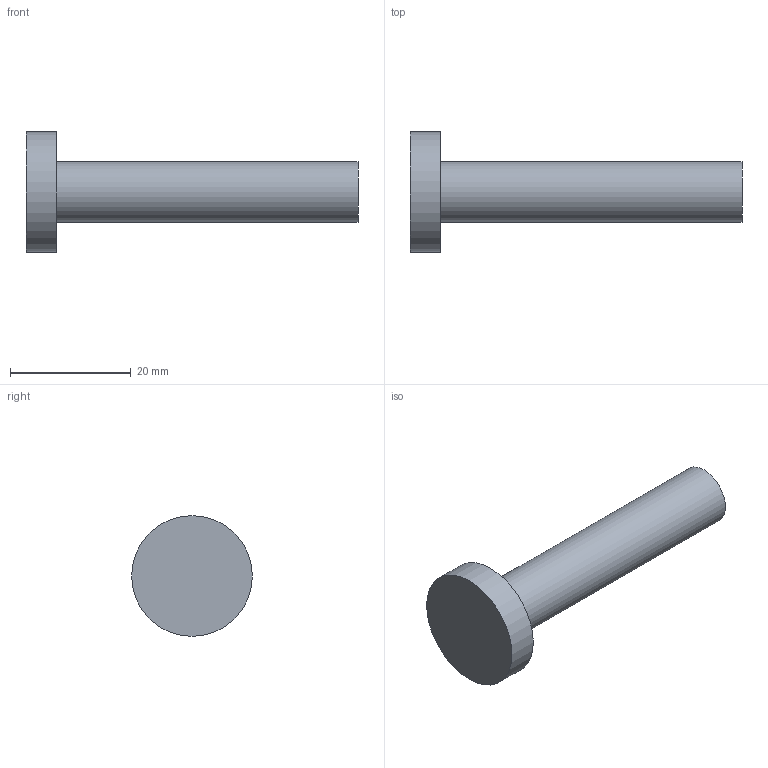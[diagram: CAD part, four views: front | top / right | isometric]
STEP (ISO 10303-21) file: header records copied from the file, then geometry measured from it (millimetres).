
FILE_DESCRIPTION(('FreeCAD Model'),'2;1');
FILE_NAME('Open CASCADE Shape Model','2025-10-11T09:52:11',(''),(''), 'Open CASCADE STEP processor 7.8','FreeCAD','Unknown');
FILE_SCHEMA(('AUTOMOTIVE_DESIGN { 1 0 10303 214 1 1 1 1 }'));
Length unit declared in the file: millimetre
Products named in the file (1): Body
Bounding box: 55 x 20 x 20 mm (x, y, z)
Volume: 5497.8 mm3; surface area: 2513.3 mm2
Topology: 1 solids, 1 shells, 5 faces, 6 edges, 4 vertices
Faces by surface type: plane 3, cylinder 2
Full cylindrical faces by diameter (mm): 10 x1, 20 x1
Entity records: 204 total; most frequent: DIRECTION 34, CARTESIAN_POINT 28, ORIENTED_EDGE 12, PCURVE 12, DEFINITIONAL_REPRESENTATION 12, AXIS2_PLACEMENT_3D 10, LINE 10, VECTOR 10
